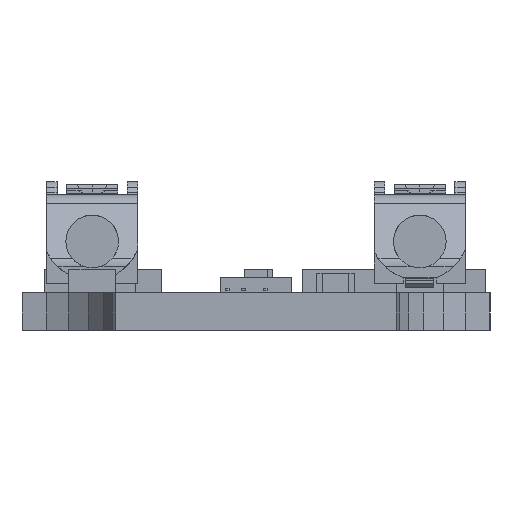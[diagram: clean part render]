
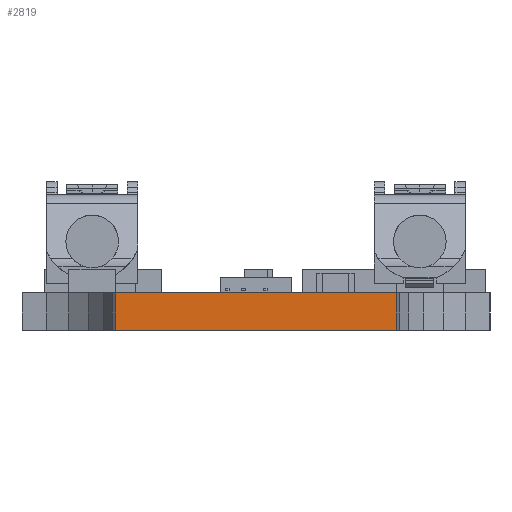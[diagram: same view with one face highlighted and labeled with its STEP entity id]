
A CAD part, left-side view. The second image highlights one B-rep face of the part: STEP entity #2819.
In plain terms, the highlighted planar face has unit normal (-1, 0, 0).
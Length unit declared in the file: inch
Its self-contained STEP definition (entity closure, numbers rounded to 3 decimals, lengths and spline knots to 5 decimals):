
#15=DIRECTION('',(0.,-1.,0.));
#16=VECTOR('',#15,12.);
#17=CARTESIAN_POINT('',(-139.6,6.,0.));
#18=LINE('',#17,#16);
#737=DIRECTION('',(0.,0.,1.));
#738=VECTOR('',#737,1.6);
#739=CARTESIAN_POINT('',(-139.6,6.,0.));
#740=LINE('',#739,#738);
#1451=DIRECTION('',(0.,0.,1.));
#1452=VECTOR('',#1451,1.6);
#1453=CARTESIAN_POINT('',(-139.6,-6.,0.));
#1454=LINE('',#1453,#1452);
#1458=DIRECTION('',(0.,-1.,0.));
#1459=VECTOR('',#1458,12.);
#1460=CARTESIAN_POINT('',(-139.6,6.,1.6));
#1461=LINE('',#1460,#1459);
#2179=CARTESIAN_POINT('',(-139.6,6.,0.));
#2180=CARTESIAN_POINT('',(-139.6,-6.,0.));
#2181=VERTEX_POINT('',#2179);
#2182=VERTEX_POINT('',#2180);
#2385=CARTESIAN_POINT('',(-139.6,6.,1.6));
#2386=CARTESIAN_POINT('',(-139.6,-6.,1.6));
#2387=VERTEX_POINT('',#2385);
#2388=VERTEX_POINT('',#2386);
#2805=CARTESIAN_POINT('',(-139.6,6.,0.));
#2806=DIRECTION('',(-1.,0.,0.));
#2807=DIRECTION('',(0.,-1.,0.));
#2808=AXIS2_PLACEMENT_3D('',#2805,#2806,#2807);
#2809=PLANE('',#2808);
#2810=ORIENTED_EDGE('',*,*,#2596,.F.);
#2812=ORIENTED_EDGE('',*,*,#2811,.T.);
#2814=ORIENTED_EDGE('',*,*,#2813,.T.);
#2816=ORIENTED_EDGE('',*,*,#2815,.F.);
#2817=EDGE_LOOP('',(#2810,#2812,#2814,#2816));
#2818=FACE_OUTER_BOUND('',#2817,.F.);
#2596=EDGE_CURVE('',#2181,#2182,#18,.T.);
#2811=EDGE_CURVE('',#2181,#2387,#740,.T.);
#2813=EDGE_CURVE('',#2387,#2388,#1461,.T.);
#2815=EDGE_CURVE('',#2182,#2388,#1454,.T.);
#2819=ADVANCED_FACE('',(#2818),#2809,.T.);
